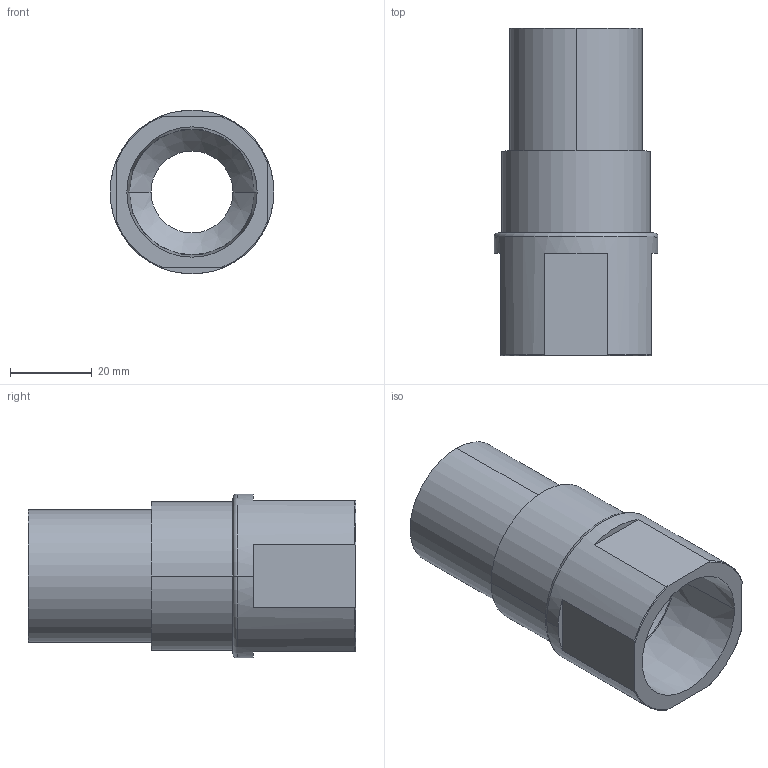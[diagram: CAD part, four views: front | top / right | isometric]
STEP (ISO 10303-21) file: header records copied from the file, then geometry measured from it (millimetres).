
FILE_DESCRIPTION (( 'STEP AP214' ), '1' );
FILE_NAME ('KP_C17-32FS.STEP', '2014-01-20T15:56:10', ( 'robinj' ), ( 'Microsoft' ), 'SwSTEP 2.0', 'SolidWorks 2014', '' );
FILE_SCHEMA (( 'AUTOMOTIVE_DESIGN' ));
Length unit declared in the file: millimetre
Products named in the file (1): KP_C17-32FS
Bounding box: 40 x 80 x 40 mm (x, y, z)
Volume: 39507.8 mm3; surface area: 23655.1 mm2
Topology: 1 solids, 3 shells, 64 faces, 148 edges, 94 vertices
Faces by surface type: cylinder 24, plane 18, torus 12, cone 10
Entity records: 2124 total; most frequent: CARTESIAN_POINT 379, DIRECTION 360, ORIENTED_EDGE 296, AXIS2_PLACEMENT_3D 155, EDGE_CURVE 148, VERTEX_POINT 94, CIRCLE 90, EDGE_LOOP 74
